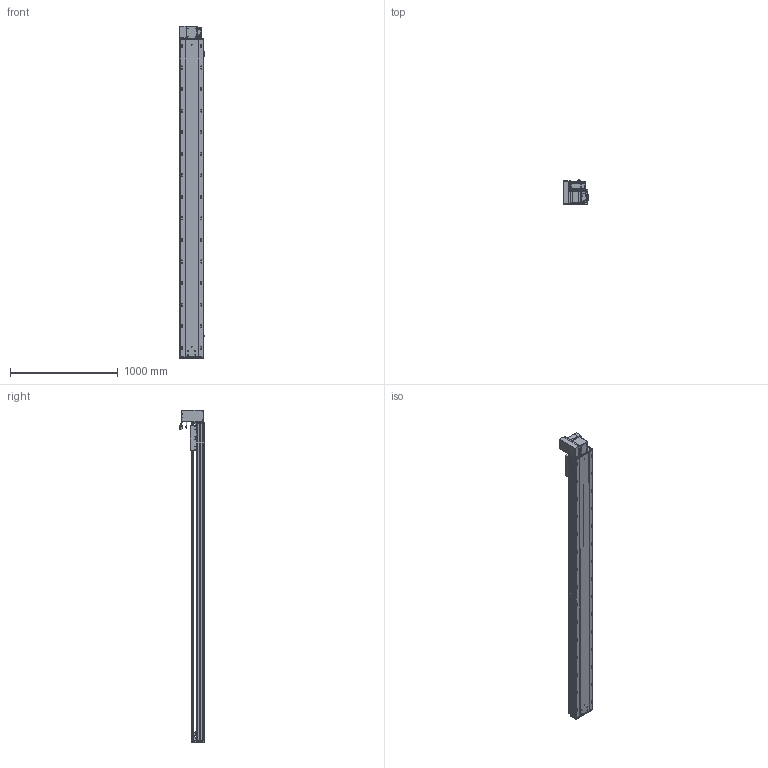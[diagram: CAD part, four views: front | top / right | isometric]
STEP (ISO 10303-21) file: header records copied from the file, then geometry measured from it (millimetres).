
FILE_DESCRIPTION (( 'STEP AP203' ), '1' );
FILE_NAME ('RY220-T-300-UL.SLDASM_2600.step', '2022-07-25T08:35:48', ( '' ), ( '' ), 'SwSTEP 2.0', 'SolidWorks 2016', '' );
FILE_SCHEMA (( 'CONFIG_CONTROL_DESIGN' ));
Length unit declared in the file: millimetre
Products named in the file (14): RY220翋肮祭謫釱; RY220-T-300-奻裔啣_2600; RY220-T-300-UL.SLDASM_2600; RY220-T菁釱-300_2600; 滅袉蝶18-15; 110A-T-肮祭謫釱傷裔; RY220-俋离672覜茼んえ; RY220-同步轮副支撑座6304×2; RY220-T-蛌殏萇儂假蚾啣(750W); 怢湛750W_ECMA-CX0807ES; 覜茼ん672; RY220翋肮祭謫裔啣; RY220-T-湍謫欶(鍼踢); RY220圉猾敕々湍臏賑輸
Assembly tree (18 placements, depth 2):
  RY220-T-300-UL.SLDASM_2600
    RY220-T菁釱-300_2600
    RY220翋肮祭謫釱
    覜茼ん672  x3
    RY220圉猾敕々湍臏賑輸
    RY220-T-300-奻裔啣_2600
    RY220-俋离672覜茼んえ
    滅袉蝶18-15  x3
    RY220翋肮祭謫裔啣  x2
    110A-T-肮祭謫釱傷裔
    怢湛750W_ECMA-CX0807ES
    RY220-T-湍謫欶(鍼踢)
    RY220-T-蛌殏萇儂假蚾啣(750W)
    RY220-同步轮副支撑座6304×2
Bounding box: 239.7 x 231.74 x 3080.5 mm (x, y, z)
Volume: 22616858.7 mm3; surface area: 6954828 mm2
Topology: 19 solids, 19 shells, 2944 faces, 8139 edges, 5106 vertices
Faces by surface type: cylinder 1440, plane 1069, cone 353, bspline 56, sphere 16, torus 10
Entity records: 98099 total; most frequent: CARTESIAN_POINT 27705, ORIENTED_EDGE 14554, DIRECTION 14012, EDGE_CURVE 7277, AXIS2_PLACEMENT_3D 5042, VERTEX_POINT 4730, VECTOR 3928, LINE 3928
